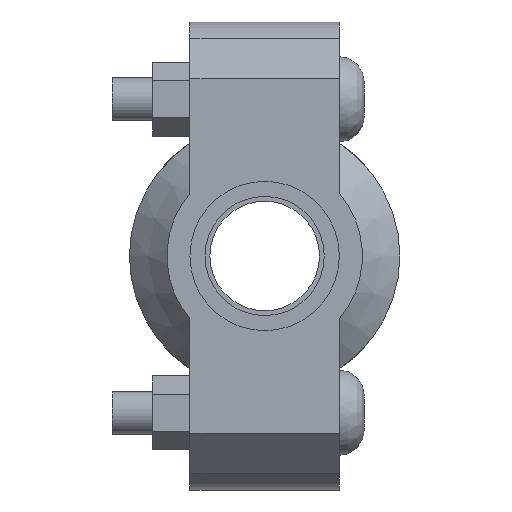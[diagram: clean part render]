
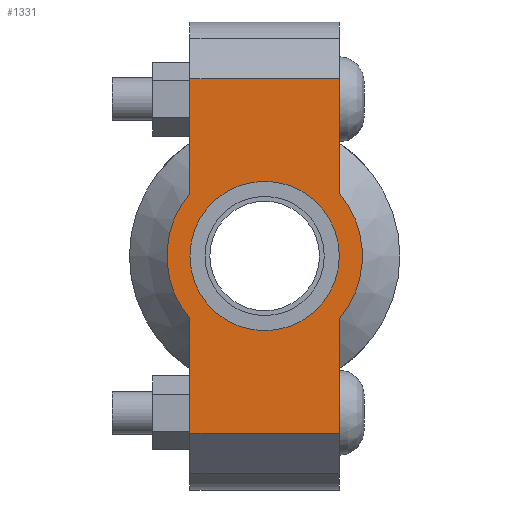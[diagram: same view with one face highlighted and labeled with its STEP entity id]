
A CAD part, left-side view. The second image highlights one B-rep face of the part: STEP entity #1331.
In plain terms, the highlighted planar face has unit normal (-1, 0, 0) as drawn and (0, 0, 1) by its records, which use the part's own axes.
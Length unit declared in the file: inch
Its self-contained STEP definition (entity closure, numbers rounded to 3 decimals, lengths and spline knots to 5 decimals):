
#103=LINE('',#2263,#194);
#118=LINE('',#2322,#209);
#126=LINE('',#2352,#217);
#128=LINE('',#2355,#219);
#129=LINE('',#2360,#220);
#130=LINE('',#2361,#221);
#194=VECTOR('',#1838,0.3937);
#209=VECTOR('',#1873,0.3937);
#217=VECTOR('',#1893,0.3937);
#219=VECTOR('',#1897,0.3937);
#220=VECTOR('',#1902,0.3937);
#221=VECTOR('',#1903,0.3937);
#273=FACE_BOUND('',#420,.T.);
#329=FACE_OUTER_BOUND('',#419,.T.);
#419=EDGE_LOOP('',(#1063,#1064,#1065,#1066,#1067,#1068,#1069,#1070));
#420=EDGE_LOOP('',(#1071));
#478=CIRCLE('',#1504,0.6575);
#502=CIRCLE('',#1556,0.86);
#503=CIRCLE('',#1557,0.86);
#550=VERTEX_POINT('',#2089);
#591=VERTEX_POINT('',#2260);
#592=VERTEX_POINT('',#2262);
#613=VERTEX_POINT('',#2317);
#614=VERTEX_POINT('',#2321);
#623=VERTEX_POINT('',#2347);
#624=VERTEX_POINT('',#2351);
#625=VERTEX_POINT('',#2357);
#626=VERTEX_POINT('',#2359);
#684=EDGE_CURVE('',#550,#550,#478,.T.);
#741=EDGE_CURVE('',#592,#591,#103,.T.);
#766=EDGE_CURVE('',#614,#613,#118,.T.);
#779=EDGE_CURVE('',#624,#623,#126,.T.);
#781=EDGE_CURVE('',#624,#591,#128,.T.);
#782=EDGE_CURVE('',#623,#625,#502,.T.);
#783=EDGE_CURVE('',#625,#626,#129,.T.);
#784=EDGE_CURVE('',#614,#626,#130,.T.);
#785=EDGE_CURVE('',#613,#592,#503,.T.);
#1063=ORIENTED_EDGE('',*,*,#781,.F.);
#1064=ORIENTED_EDGE('',*,*,#779,.T.);
#1065=ORIENTED_EDGE('',*,*,#782,.T.);
#1066=ORIENTED_EDGE('',*,*,#783,.T.);
#1067=ORIENTED_EDGE('',*,*,#784,.F.);
#1068=ORIENTED_EDGE('',*,*,#766,.T.);
#1069=ORIENTED_EDGE('',*,*,#785,.T.);
#1070=ORIENTED_EDGE('',*,*,#741,.T.);
#1071=ORIENTED_EDGE('',*,*,#684,.T.);
#1196=PLANE('',#1555);
#1331=ADVANCED_FACE('',(#329,#273),#1196,.T.);
#1504=AXIS2_PLACEMENT_3D('',#2091,#1728,#1729);
#1555=AXIS2_PLACEMENT_3D('',#2356,#1898,#1899);
#1556=AXIS2_PLACEMENT_3D('',#2358,#1900,#1901);
#1557=AXIS2_PLACEMENT_3D('',#2362,#1904,#1905);
#1728=DIRECTION('center_axis',(0.,0.,-1.));
#1729=DIRECTION('ref_axis',(-1.,0.,0.));
#1838=DIRECTION('',(-1.,0.,0.));
#1873=DIRECTION('',(-1.,0.,0.));
#1893=DIRECTION('',(1.,0.,0.));
#1897=DIRECTION('',(0.,1.,0.));
#1898=DIRECTION('center_axis',(0.,0.,1.));
#1899=DIRECTION('ref_axis',(1.,0.,0.));
#1900=DIRECTION('center_axis',(0.,0.,1.));
#1901=DIRECTION('ref_axis',(-1.,0.,0.));
#1902=DIRECTION('',(1.,0.,0.));
#1903=DIRECTION('',(0.,-1.,0.));
#1904=DIRECTION('center_axis',(0.,0.,1.));
#1905=DIRECTION('ref_axis',(-1.,0.,0.));
#2089=CARTESIAN_POINT('',(0.6575,0.,0.875));
#2091=CARTESIAN_POINT('Origin',(0.,0.,0.875));
#2260=CARTESIAN_POINT('',(-1.56,0.6575,0.875));
#2262=CARTESIAN_POINT('',(-0.55434,0.6575,0.875));
#2263=CARTESIAN_POINT('',(2.06,0.6575,0.875));
#2317=CARTESIAN_POINT('',(0.55434,0.6575,0.875));
#2321=CARTESIAN_POINT('',(1.56,0.6575,0.875));
#2322=CARTESIAN_POINT('',(2.06,0.6575,0.875));
#2347=CARTESIAN_POINT('',(-0.55434,-0.6575,0.875));
#2351=CARTESIAN_POINT('',(-1.56,-0.6575,0.875));
#2352=CARTESIAN_POINT('',(-2.06,-0.6575,0.875));
#2355=CARTESIAN_POINT('',(-1.56,0.32875,0.875));
#2356=CARTESIAN_POINT('Origin',(0.,0.,
0.875));
#2357=CARTESIAN_POINT('',(0.55434,-0.6575,0.875));
#2358=CARTESIAN_POINT('Origin',(0.,0.,0.875));
#2359=CARTESIAN_POINT('',(1.56,-0.6575,0.875));
#2360=CARTESIAN_POINT('',(-2.06,-0.6575,0.875));
#2361=CARTESIAN_POINT('',(1.56,-0.32875,0.875));
#2362=CARTESIAN_POINT('Origin',(0.,0.,0.875));
